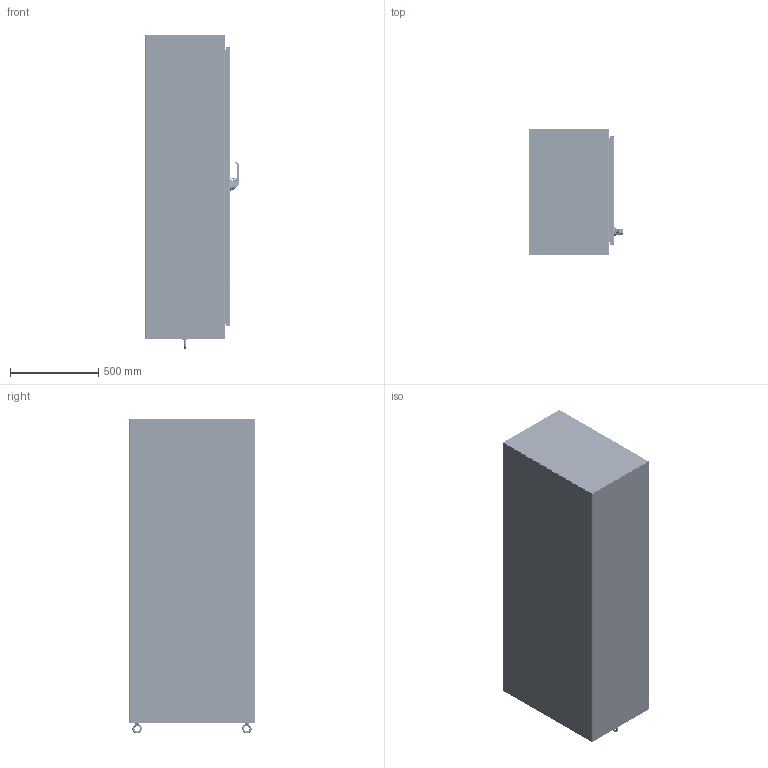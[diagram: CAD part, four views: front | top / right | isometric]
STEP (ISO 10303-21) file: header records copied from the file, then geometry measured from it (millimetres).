
FILE_DESCRIPTION((''),'2;1');
FILE_NAME('MODEL-461_ASM','2026-03-11T13:32:47',('joshi'),('SAGINAW CONTROL & ENGINEERING'),'CREO PARAMETRIC BY PTC INC, 2021284','CREO PARAMETRIC BY PTC INC, 2021284','');
FILE_SCHEMA(('AUTOMOTIVE_DESIGN { 1 0 10303 214 1 1 1 1 }'));
Length unit declared in the file: inch
Products named in the file (66): MODEL-461-L-SD; MODEL-461-TP; MODEL-461-R-SD; MODEL-461-BTM; MODEL-461-DR; 100837; 111267; 100882; 100953_SCREW_MTG; 100953_PADLOCK_CATCH; 100953_SCREW_LARGE; 100953_INSERT_SHAFT; 100953_INSERT_PCH; 100953_GASKET; 100953_O-RING; 100953_BASE; 100953_SPRING; 100953_HANDLE; 100953_CAM_SHAFT; 100953_HANDLE_ASM; 100953_CAM_ADAPTER; 100953_EARTH_NUT; 100953_FLANGE_NUT; 100953_CAM_NUT; 100953_CP_INSERT; 100953_SPRING_CAM; 100953_TORSION_SPRING; 100953_SCREW_INSERT; 100953_ASM; 102237; 100030; 102237_ASM; MODEL-461-ROD-UPR; 128146; 128145; 128144; 102482; MODEL-461-ROD-UPR_ASM; 128143; 112504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
Assembly tree (126 placements, depth 5):
  MODEL-461_ASM
    MODEL-461-L-SD
    MODEL-461-TP
    MODEL-461-R-SD
    MODEL-461-BTM
    MODEL-461-DOOR-ASSY_ASM
      MODEL-461-DR
      100837  x7
      111267
      100882  x12
      100953_ASM
        100953_SCREW_MTG
        100953_PADLOCK_CATCH
        100953_SCREW_LARGE  x2
        100953_INSERT_SHAFT
        100953_INSERT_PCH
        100953_GASKET
        100953_O-RING
        100953_BASE
        100953_SPRING
        100953_HANDLE_ASM
          100953_HANDLE
          100953_CAM_SHAFT
        100953_CAM_ADAPTER
        100953_EARTH_NUT
        100953_FLANGE_NUT
        100953_CAM_NUT
        100953_CP_INSERT
        100953_SPRING_CAM
        100953_TORSION_SPRING
        100953_SCREW_INSERT
      102237_ASM
        102237
        100030  x2
      MODEL-461-ROD-UPR_ASM
        MODEL-461-ROD-UPR
        128146
        128145
        128144
        102482  x2
      128143  x2
      112504  x2
      MODEL-461-ROD-LWR_ASM
        MODEL-461-ROD-LWR
        128146
        128145
        128144
        102482  x2
      MODEL-461-PR-GSKT
      128258_ASM  x4
        128258
      126395  x4
      102483  x4
      101383_ASM  x4
        101383
        101383-STUD
      101221  x4
    100837  x4
    103357
    101653  x6
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Bounding box: 535.27 x 717.55 x 1788.36 mm (x, y, z)
Volume: 17397630 mm3; surface area: 12631791.6 mm2
Topology: 130 solids, 130 shells, 12180 faces, 31074 edges, 19142 vertices
Faces by surface type: plane 4128, cylinder 3126, bspline 2986, torus 904, cone 692, sphere 314, extrusion 30
Entity records: 356422 total; most frequent: CARTESIAN_POINT 150146, ORIENTED_EDGE 32122, DIRECTION 28810, PRESENTATION_STYLE_ASSIGNMENT 16094, STYLED_ITEM 16089, EDGE_CURVE 16061, CURVE_STYLE 16013, AXIS2_PLACEMENT_3D 10765
